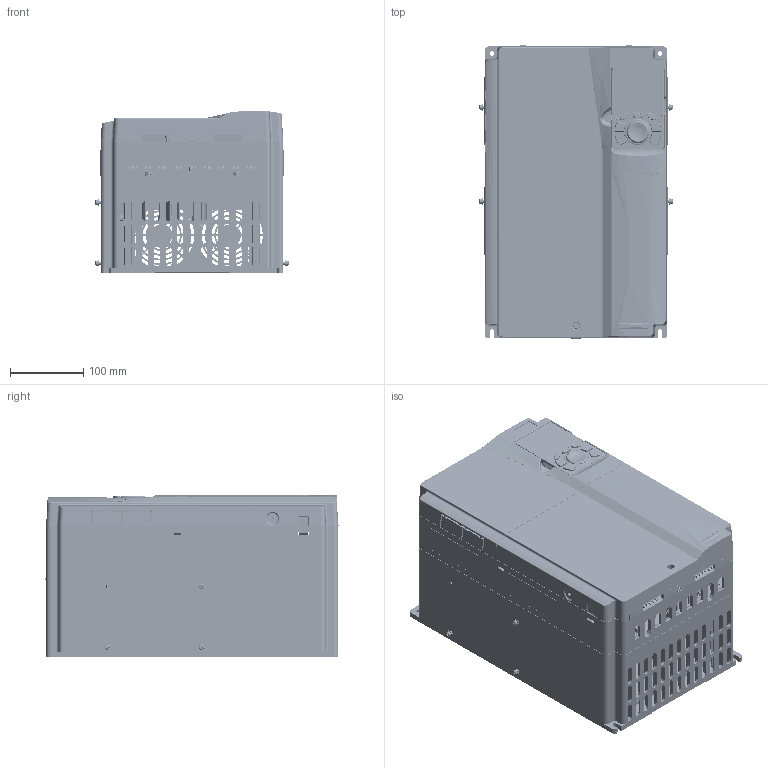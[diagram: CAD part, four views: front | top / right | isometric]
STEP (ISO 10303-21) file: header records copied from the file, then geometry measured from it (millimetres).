
FILE_DESCRIPTION((''),'2;1');
FILE_NAME('Open CASCADE Shape Model','2021-03-30T08:58:52',( 'Administrator'),(''),'Open CASCADE STEP processor 7.6', 'PRO/ENGINEER BY PARAMETRIC TECHNOLOGY CORPORATION, 2010100','Unknown' );
FILE_SCHEMA(('AUTOMOTIVE_DESIGN_CC2 { 1 2 10303 214 -1 1 5 4 }'));
Length unit declared in the file: millimetre
Products named in the file (45): GD350-037G-4_ASM; 80740138; 80740133; 80740134; 80740135; 80740188; 80740187; 80740183; 80740184; 80740019; 0_BOTTOM_PLATE_ASM; 80310368; FAN-CONN_ASM; FAN-CONN-1; FAN-CONN-2; 80740167; 80740167SY; 80740168; KEY-LCD01-ZY-350_ASM; 80740163; 40810091_ASM; 80740162; 80880456; 80880456SY; 80740164; 80740164SY; KEY-LCD01-ZY-350-ES_ASM; 36002-00065; 39009-00082; 17003-02723_20180403_ASM; 17003-02723_20180403; GD350-037-4-ES_ASM; PCB_DRIVE_ASM; 17003-01917-1; 70610324; 36004-00115_OULU; TNR22-26-1P25-5_; 17003-01596-A1; GD350-037-4-FS_ASM; GB9074_4_M4X12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
Assembly tree (74 placements, depth 5):
  GD350-037G-4_ASM
    80740138
    80740133
    80740134
    80740135
    80740188
    80740187
    80740183
    80740184
    80740019  x4
    0_BOTTOM_PLATE_ASM
      80310368
    FAN-CONN_ASM  x2
      FAN-CONN-1
      FAN-CONN-2
    80740167
    80740167SY
    80740168
    KEY-LCD01-ZY-350_ASM
      80740163
      40810091_ASM
        80740162
        80880456
        80880456SY
      80740164
      80740164SY
      KEY-LCD01-ZY-350-ES_ASM
        36002-00065
        39009-00082
        17003-02723_20180403_ASM
          17003-02723_20180403
    GD350-037-4-ES_ASM
      PCB_DRIVE_ASM
        17003-01917-1
        70610324
        36004-00115_OULU  x2
        TNR22-26-1P25-5_
        17003-01596-A1
    GD350-037-4-FS_ASM
      GB9074_4_M4X12  x2
      77340010
      GB9074_4_M4X10  x22
      GB9074_13_M5X10  x2
      GB9074_4_M3X8  x3
      GB9074_4_M4X16
Bounding box: 265.23 x 401.49 x 222.37 mm (x, y, z)
Volume: 3691010.4 mm3; surface area: 2927032.5 mm2
Topology: 64 solids, 64 shells, 16709 faces, 46758 edges, 30306 vertices
Faces by surface type: plane 10049, cylinder 4586, cone 885, torus 441, bspline 350, extrusion 262, sphere 136
Entity records: 539748 total; most frequent: CARTESIAN_POINT 131255, ORIENTED_EDGE 87782, DIRECTION 80727, EDGE_CURVE 43891, VECTOR 30983, LINE 30721, VERTEX_POINT 28526, AXIS2_PLACEMENT_3D 24872
